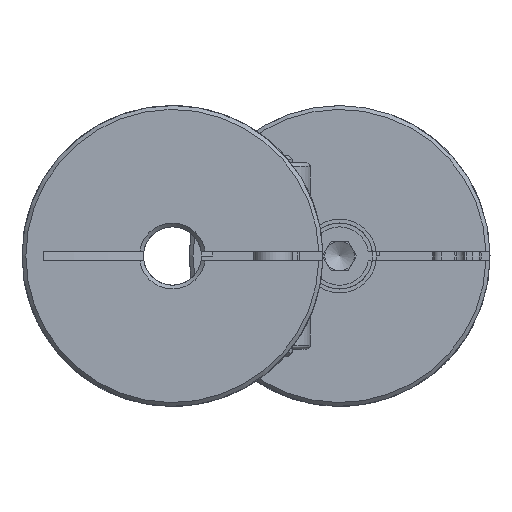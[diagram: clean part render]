
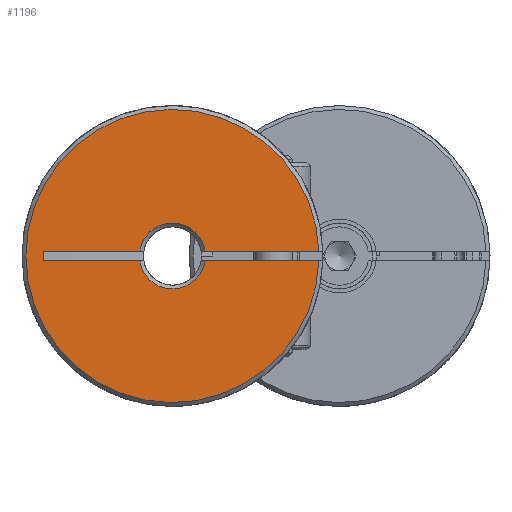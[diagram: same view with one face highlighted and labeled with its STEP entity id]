
A CAD part, left-side view. The second image highlights one B-rep face of the part: STEP entity #1196.
In plain terms, the highlighted planar face has unit normal (-1, 0, 0).
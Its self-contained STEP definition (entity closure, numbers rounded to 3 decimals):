
#1196 = ADVANCED_FACE( 'NONE', ( #1848 ), #1849, .F. );
#1848 = FACE_OUTER_BOUND( '', #2147, .T. );
#1849 = PLANE( '', #2148 );
#2147 = EDGE_LOOP( '', ( #2645, #2646, #2647, #2648, #2649, #2650, #2651, #2652 ) );
#2148 = AXIS2_PLACEMENT_3D( '', #2653, #2654, #2655 );
#2645 = ORIENTED_EDGE( '', *, *, #3147, .T. );
#2646 = ORIENTED_EDGE( '', *, *, #3149, .T. );
#2647 = ORIENTED_EDGE( '', *, *, #3096, .T. );
#2648 = ORIENTED_EDGE( '', *, *, #3134, .T. );
#2649 = ORIENTED_EDGE( '', *, *, #3139, .F. );
#2650 = ORIENTED_EDGE( '', *, *, #3144, .T. );
#2651 = ORIENTED_EDGE( '', *, *, #3148, .F. );
#2652 = ORIENTED_EDGE( '', *, *, #3142, .T. );
#2653 = CARTESIAN_POINT( '', ( 0., 1.5, 0. ) );
#2654 = DIRECTION( '', ( 1., 0., 0. ) );
#2655 = DIRECTION( '', ( 0., 1., 0. ) );
#3096 = EDGE_CURVE( 'NONE', #3477, #3478, #3479, .T. );
#3134 = EDGE_CURVE( 'NONE', #3478, #3545, #3547, .F. );
#3139 = EDGE_CURVE( 'NONE', #3552, #3545, #3554, .F. );
#3142 = EDGE_CURVE( 'NONE', #3555, #3557, #3559, .T. );
#3144 = EDGE_CURVE( 'NONE', #3552, #3560, #3562, .T. );
#3147 = EDGE_CURVE( 'NONE', #3557, #3565, #3567, .T. );
#3148 = EDGE_CURVE( 'NONE', #3555, #3560, #3568, .F. );
#3149 = EDGE_CURVE( 'NONE', #3565, #3477, #3569, .T. );
#3477 = VERTEX_POINT( 'NONE', #3633 );
#3478 = VERTEX_POINT( 'NONE', #3634 );
#3479 = LINE( '', #3635, #3636 );
#3545 = VERTEX_POINT( 'NONE', #3817 );
#3547 = CIRCLE( '', #3822, 7.55 );
#3552 = VERTEX_POINT( 'NONE', #3828 );
#3554 = LINE( '', #3833, #3834 );
#3555 = VERTEX_POINT( 'NONE', #3835 );
#3557 = VERTEX_POINT( 'NONE', #3837 );
#3559 = LINE( '', #3839, #3840 );
#3560 = VERTEX_POINT( 'NONE', #3841 );
#3562 = CIRCLE( '', #3846, 1.7 );
#3565 = VERTEX_POINT( 'NONE', #3849 );
#3567 = LINE( '', #3854, #3855 );
#3568 = LINE( '', #3856, #3857 );
#3569 = CIRCLE( '', #3858, 1.7 );
#3633 = CARTESIAN_POINT( '', ( 0., -1.682, 0.25 ) );
#3634 = CARTESIAN_POINT( '', ( 0., -7.546, 0.25 ) );
#3635 = CARTESIAN_POINT( '', ( 0., 1.5, 0.25 ) );
#3636 = VECTOR( '', #3947, 1000. );
#3817 = CARTESIAN_POINT( '', ( 0., -7.546, -0.25 ) );
#3822 = AXIS2_PLACEMENT_3D( '', #4008, #4009, #4010 );
#3828 = CARTESIAN_POINT( '', ( 0., -1.682, -0.25 ) );
#3833 = CARTESIAN_POINT( '', ( 0., -4.5, -0.25 ) );
#3834 = VECTOR( '', #4018, 1000. );
#3835 = CARTESIAN_POINT( '', ( 0., 6.624, -0.25 ) );
#3837 = CARTESIAN_POINT( '', ( 0., 6.624, 0.25 ) );
#3839 = CARTESIAN_POINT( '', ( 0., 6.624, -0.25 ) );
#3840 = VECTOR( '', #4025, 1000. );
#3841 = CARTESIAN_POINT( '', ( 0., 1.682, -0.25 ) );
#3846 = AXIS2_PLACEMENT_3D( '', #4026, #4027, #4028 );
#3849 = CARTESIAN_POINT( '', ( 0., 1.682, 0.25 ) );
#3854 = CARTESIAN_POINT( '', ( 0., 1.5, 0.25 ) );
#3855 = VECTOR( '', #4032, 1000. );
#3856 = CARTESIAN_POINT( '', ( 0., -4.5, -0.25 ) );
#3857 = VECTOR( '', #4033, 1000. );
#3858 = AXIS2_PLACEMENT_3D( '', #4034, #4035, #4036 );
#3947 = DIRECTION( '', ( 0., -1., 0. ) );
#4008 = CARTESIAN_POINT( '', ( 0., 0., 0. ) );
#4009 = DIRECTION( '', ( 1., 0., 0. ) );
#4010 = DIRECTION( '', ( 0., 0., -1. ) );
#4018 = DIRECTION( '', ( 0., 1., 0. ) );
#4025 = DIRECTION( '', ( 0., 0., 1. ) );
#4026 = CARTESIAN_POINT( '', ( 0., 0., 0. ) );
#4027 = DIRECTION( '', ( 1., 0., 0. ) );
#4028 = DIRECTION( '', ( 0., 0., -1. ) );
#4032 = DIRECTION( '', ( 0., -1., 0. ) );
#4033 = DIRECTION( '', ( 0., 1., 0. ) );
#4034 = CARTESIAN_POINT( '', ( 0., 0., 0. ) );
#4035 = DIRECTION( '', ( 1., 0., 0. ) );
#4036 = DIRECTION( '', ( 0., 0., -1. ) );
